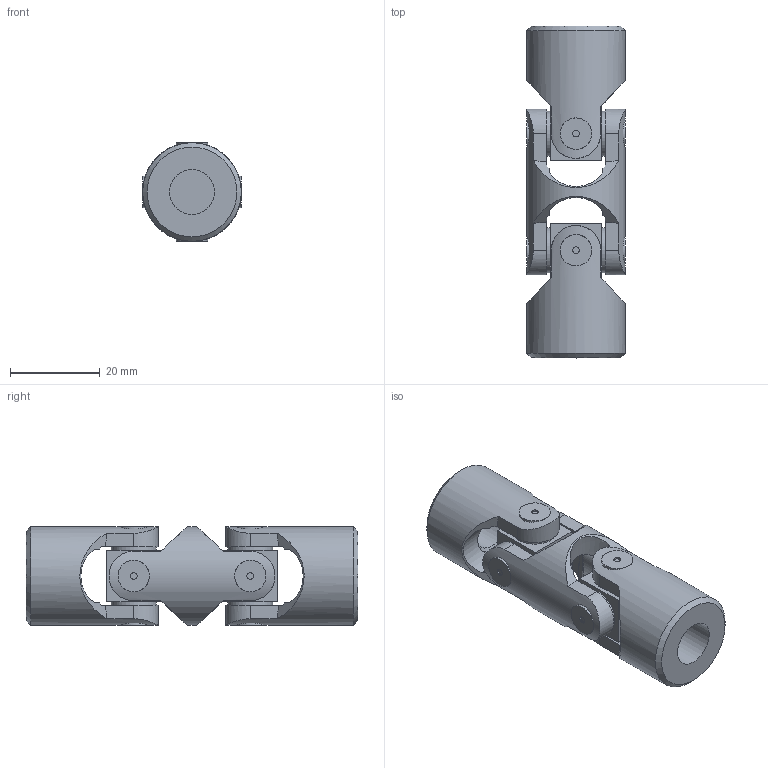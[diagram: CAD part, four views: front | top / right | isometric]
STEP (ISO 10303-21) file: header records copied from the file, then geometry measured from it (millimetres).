
FILE_DESCRIPTION(/* description */ (''),/* implementation_level */ '2;1');
FILE_NAME(/* name */ '\\SRV2016\Societa\Stefano\Disegni 3D\00Catalogo 3D\02Doppi GD-GBD\SG0D1000.stp',/* time_stamp */ '2021-11-22T17:02:23+01:00',/* author */ ('acquisti'),/* organization */ (''),/* preprocessor_version */ 'ST-DEVELOPER v15.6',/* originating_system */ 'Autodesk Inventor 2015',/* authorisation */ '');
FILE_SCHEMA (('AUTOMOTIVE_DESIGN { 1 0 10303 214 3 1 1 }'));
Length unit declared in the file: millimetre
Products named in the file (4): 03G MOD; 03G SFE; 03G MOS; Ø22_03GD-00_SG0D1000
Assembly tree (5 placements, depth 2):
  Ø22_03GD-00_SG0D1000
    03G MOD
    03G SFE  x2
    03G MOS  x2
Bounding box: 22 x 74 x 22 mm (x, y, z)
Volume: 18466.6 mm3; surface area: 10053.3 mm2
Topology: 5 solids, 5 shells, 142 faces, 324 edges, 212 vertices
Faces by surface type: plane 70, cylinder 48, cone 20, torus 4
Full cylindrical faces by diameter (mm): 1.5 x8, 10 x10, 11.5 x3, 22 x3
Entity records: 3304 total; most frequent: CARTESIAN_POINT 1199, DIRECTION 406, ORIENTED_EDGE 404, EDGE_CURVE 202, AXIS2_PLACEMENT_3D 179, VERTEX_POINT 144, EDGE_LOOP 134, FACE_OUTER_BOUND 97
